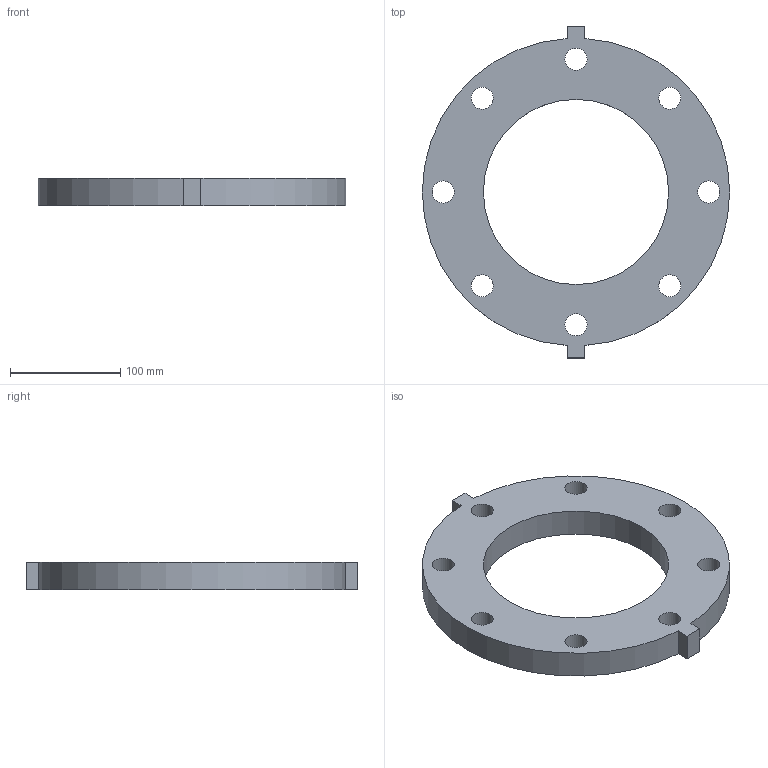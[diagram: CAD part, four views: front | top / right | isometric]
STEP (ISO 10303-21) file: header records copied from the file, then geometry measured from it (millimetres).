
FILE_DESCRIPTION(/* description */ ('VIC FLANGE ADAPTER STYLE 741 PN10 Flanges','CAx-IF Rec.Pracs.---Representation and Presentation of Product Manufacturing Information (PMI)---4.0---2014-10-13'),/* implementation_level */ '2;1');
FILE_NAME(/* name */ 'C:\Users\kkamble\AppData\Roaming\Autodesk\ApplicationPlugins\Back Up\Victaulic_IPS_Flange Adapter_PN10_Style 741 (OGSxFLG)\Victaulic_IPS_Flange Adapter_PN10_Style 741 (OGSxFLG)_6 (150).stp',/* time_stamp */ '2020-07-24T08:16:13+06:00',/* author */ ('jheald'),/* organization */ ('Victaulic'),/* preprocessor_version */ 'ST-DEVELOPER v17.2',/* originating_system */ 'Autodesk Inventor 2019',/* authorisation */ '');
FILE_SCHEMA (('AP242_MANAGED_MODEL_BASED_3D_ENGINEERING_MIM_LF { 1 0 10303 442 1 1 4 }'));
Length unit declared in the file: inch
Products named in the file (1): 741-06.0
Bounding box: 279.4 x 301.75 x 25.4 mm (x, y, z)
Volume: 937461.3 mm3; surface area: 123507.4 mm2
Topology: 1 solids, 1 shells, 19 faces, 51 edges, 34 vertices
Faces by surface type: cylinder 11, plane 8
Full cylindrical faces by diameter (mm): 20.066 x8, 168.275 x1
Entity records: 703 total; most frequent: DIRECTION 113, CARTESIAN_POINT 105, ORIENTED_EDGE 102, EDGE_CURVE 51, AXIS2_PLACEMENT_3D 42, EDGE_LOOP 37, VERTEX_POINT 34, LINE 29
